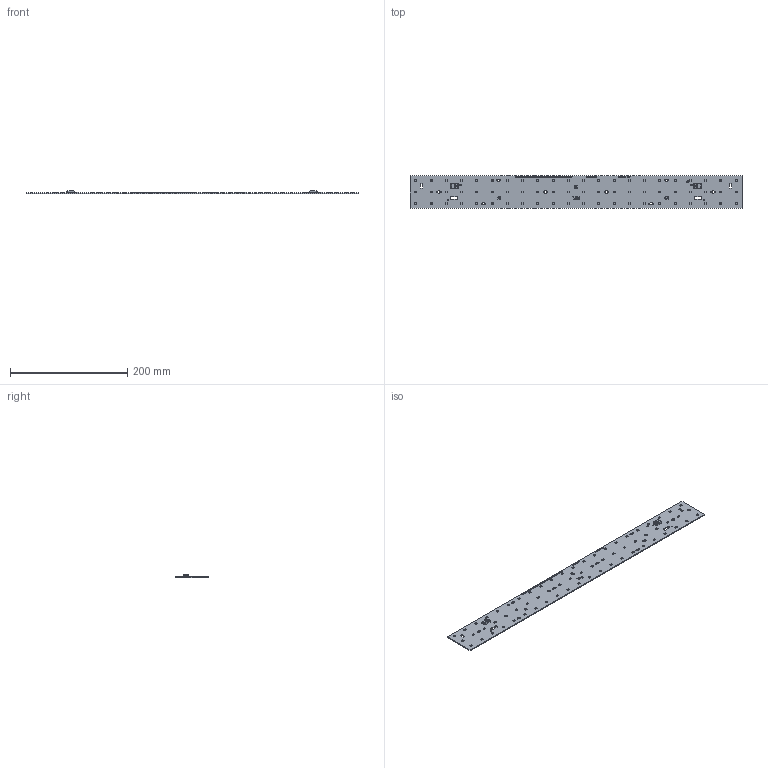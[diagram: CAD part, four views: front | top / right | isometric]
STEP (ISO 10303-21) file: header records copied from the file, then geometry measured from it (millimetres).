
FILE_DESCRIPTION(('Creo Elements/Direct Modeling STEP Export'),'2;1');
FILE_NAME('3D-Model_MLC SC W5.5_566BT_66_yzz G2.stp','2025-05-20T11:34:55',(''),(''),'PTC Creo Elements/Direct Modeling STEP processor for AP214 (Solid Model)','PTC Creo Elements/Direct Modeling 19.0E 27-Jun-2016 (C) Parametric Technology GmbH','');
FILE_SCHEMA(('AUTOMOTIVE_DESIGN { 1 0 10303 214 1 1 1 1 }'));
Length unit declared in the file: millimetre
Products named in the file (185): PRINT.99; PRINT.100; PRINT.97; PRINT.94; PRINT.102; PRINT.96; PRINT.101; PRINT.98; PRINT.103; PRINT.95; PRINT.104; PRINT.59; PRINT.57; PRINT.51; PRINT.52; PRINT.60; PRINT.50; PRINT.55; PRINT.54; PRINT.53; PRINT.56; PRINT.58; PRINT.62; PRINT.68; PRINT.64; PRINT.70; PRINT.66; PRINT.69; PRINT.63; PRINT.61; PRINT.65; PRINT.71; PRINT.67; PRINT.27; PRINT.28; PRINT.21; PRINT.29; PRINT.26; PRINT.24; PRINT.19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
Assembly tree (180 placements, depth 2):
  PRINT1
    PRINT.40
    PRINT.46
    PRINT.42
    PRINT.45
    PRINT.44
    PRINT.47
    PRINT.49
    PRINT.48
    PRINT.43
    PRINT.41
    PRINT.38
    PRINT.39
    PRINT.31
    PRINT.32
    PRINT.37
    PRINT.35
    PRINT.34
    PRINT.33
    PRINT.36
    PRINT.30
    PRINT.73
    PRINT.75
    PRINT.78
    PRINT.77
    PRINT.74
    PRINT.76
    PRINT.80
    PRINT.81
    PRINT.79
    PRINT.72
    PRINT.82
    PRINT.105
    PRINT.109
    PRINT.106
    PRINT.107
    PRINT.110
    PRINT.108
    PRINT.111
    PRINT.18
    PRINT.16
    PRINT.14
    PRINT.17
    PRINT.15
    PRINT.86
    PRINT.91
    PRINT.83
    PRINT.84
    PRINT.87
    PRINT.89
    PRINT.88
    PRINT.90
    PRINT.85
    PRINT.92
    PRINT.93
    PRINT.1
    PRINT.3
    PRINT.4
    PRINT
    PRINT.2
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Bounding box: 566 x 55 x 6.1 mm (x, y, z)
Volume: 50298.2 mm3; surface area: 67246.8 mm2
Topology: 181 solids, 181 shells, 8752 faces, 23806 edges, 15626 vertices
Faces by surface type: plane 6908, cylinder 1840, sphere 4
Entity records: 122664 total; most frequent: CARTESIAN_POINT 16841, ORIENTED_EDGE 16282, DIRECTION 16012, EDGE_CURVE 8141, VECTOR 6484, LINE 6484, VERTEX_POINT 5421, AXIS2_PLACEMENT_3D 4764
